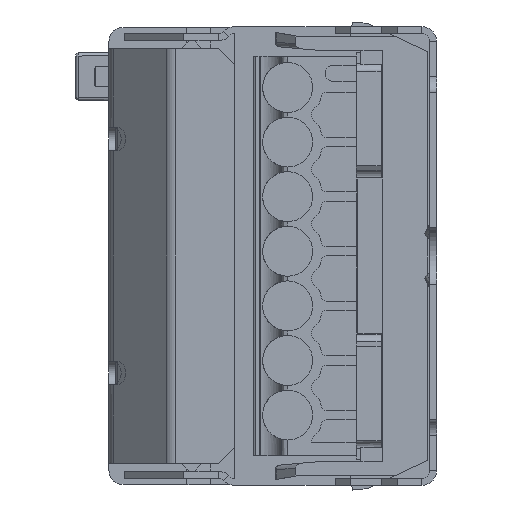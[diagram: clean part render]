
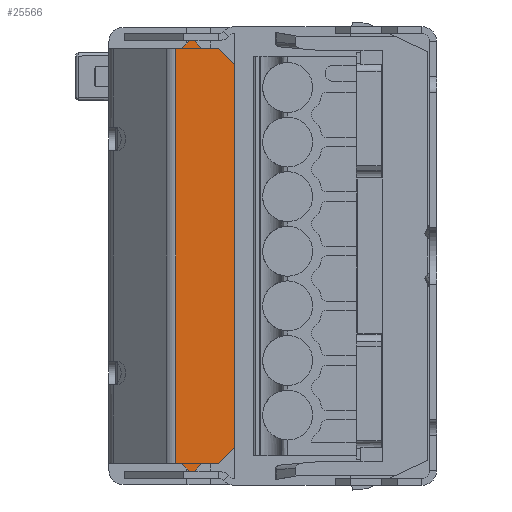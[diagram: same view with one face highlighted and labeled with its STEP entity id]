
A CAD part, left-side view. The second image highlights one B-rep face of the part: STEP entity #25566.
In plain terms, the highlighted planar face has unit normal (-1, 0, 0).
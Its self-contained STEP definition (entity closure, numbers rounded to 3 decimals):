
#217 = CARTESIAN_POINT ( 'NONE',  ( -153.999, 4.003, 13.8 ) ) ;
#235 = LINE ( 'NONE', #36183, #7130 ) ;
#1189 = CARTESIAN_POINT ( 'NONE',  ( -153.999, 6.203, 13.95 ) ) ;
#1348 = CARTESIAN_POINT ( 'NONE',  ( -153.999, 3.45, -12.247 ) ) ;
#1401 = ORIENTED_EDGE ( 'NONE', *, *, #15741, .F. ) ;
#1615 = VERTEX_POINT ( 'NONE', #35372 ) ;
#2371 = CARTESIAN_POINT ( 'NONE',  ( -153.999, 6.853, 13.3 ) ) ;
#2872 = DIRECTION ( 'NONE',  ( 0., -1., 0. ) ) ;
#3194 = EDGE_CURVE ( 'NONE', #17215, #4475, #13320, .T. ) ;
#3237 = LINE ( 'NONE', #217, #10137 ) ;
#3341 = DIRECTION ( 'NONE',  ( 0., 0.707, 0.707 ) ) ;
#3815 = EDGE_CURVE ( 'NONE', #11654, #31414, #9260, .T. ) ;
#3944 = ORIENTED_EDGE ( 'NONE', *, *, #32106, .T. ) ;
#3980 = ORIENTED_EDGE ( 'NONE', *, *, #12141, .F. ) ;
#4018 = VECTOR ( 'NONE', #20964, 1000. ) ;
#4038 = DIRECTION ( 'NONE',  ( 0., -0.707, -0.707 ) ) ;
#4118 = ORIENTED_EDGE ( 'NONE', *, *, #3194, .T. ) ;
#4258 = DIRECTION ( 'NONE',  ( 0., 0., 1. ) ) ;
#4356 = CARTESIAN_POINT ( 'NONE',  ( -153.999, 4.503, 13.3 ) ) ;
#4475 = VERTEX_POINT ( 'NONE', #11331 ) ;
#4680 = LINE ( 'NONE', #35055, #12498 ) ;
#5462 = CARTESIAN_POINT ( 'NONE',  ( -153.999, 13.313, 13.3 ) ) ;
#6161 = CARTESIAN_POINT ( 'NONE',  ( -153.999, 3.003, 11.8 ) ) ;
#6222 = EDGE_CURVE ( 'NONE', #1615, #31651, #27404, .T. ) ;
#7130 = VECTOR ( 'NONE', #4038, 1000. ) ;
#7464 = ORIENTED_EDGE ( 'NONE', *, *, #36485, .T. ) ;
#7499 = CARTESIAN_POINT ( 'NONE',  ( -153.999, 7.208, 13.3 ) ) ;
#7591 = VERTEX_POINT ( 'NONE', #25080 ) ;
#7998 = VERTEX_POINT ( 'NONE', #12643 ) ;
#8691 = EDGE_CURVE ( 'NONE', #1615, #14055, #32425, .T. ) ;
#8727 = ORIENTED_EDGE ( 'NONE', *, *, #14065, .T. ) ;
#9260 = LINE ( 'NONE', #2371, #17054 ) ;
#9327 = AXIS2_PLACEMENT_3D ( 'NONE', #31617, #14113, #34570 ) ;
#10006 = VECTOR ( 'NONE', #4258, 1000. ) ;
#10137 = VECTOR ( 'NONE', #35480, 1000. ) ;
#10503 = VECTOR ( 'NONE', #34993, 1000. ) ;
#10767 = ORIENTED_EDGE ( 'NONE', *, *, #24605, .F. ) ;
#11331 = CARTESIAN_POINT ( 'NONE',  ( -153.999, 7.208, -13.3 ) ) ;
#11654 = VERTEX_POINT ( 'NONE', #22152 ) ;
#11911 = VECTOR ( 'NONE', #22639, 1000. ) ;
#12008 = VERTEX_POINT ( 'NONE', #12140 ) ;
#12094 = ORIENTED_EDGE ( 'NONE', *, *, #6222, .T. ) ;
#12140 = CARTESIAN_POINT ( 'NONE',  ( -153.999, 6.053, 13.8 ) ) ;
#12141 = EDGE_CURVE ( 'NONE', #12008, #21775, #22203, .T. ) ;
#12498 = VECTOR ( 'NONE', #14736, 1000. ) ;
#12643 = CARTESIAN_POINT ( 'NONE',  ( -153.999, 3.45, 12.247 ) ) ;
#13320 = LINE ( 'NONE', #17556, #28856 ) ;
#13993 = PLANE ( 'NONE',  #9327 ) ;
#14055 = VERTEX_POINT ( 'NONE', #15941 ) ;
#14065 = EDGE_CURVE ( 'NONE', #21365, #7998, #32453, .T. ) ;
#14113 = DIRECTION ( 'NONE',  ( -1., 0., 0. ) ) ;
#14257 = LINE ( 'NONE', #37984, #28909 ) ;
#14503 = EDGE_CURVE ( 'NONE', #21775, #33476, #17237, .T. ) ;
#14736 = DIRECTION ( 'NONE',  ( 0., -0.707, 0.707 ) ) ;
#15074 = CARTESIAN_POINT ( 'NONE',  ( -153.999, 6.203, -13.95 ) ) ;
#15493 = FACE_OUTER_BOUND ( 'NONE', #17370, .T. ) ;
#15741 = EDGE_CURVE ( 'NONE', #17215, #11654, #35265, .T. ) ;
#15941 = CARTESIAN_POINT ( 'NONE',  ( -153.999, 6.353, -13.8 ) ) ;
#17054 = VECTOR ( 'NONE', #19962, 1000. ) ;
#17097 = VERTEX_POINT ( 'NONE', #33054 ) ;
#17215 = VERTEX_POINT ( 'NONE', #7499 ) ;
#17237 = LINE ( 'NONE', #32938, #25045 ) ;
#17246 = ORIENTED_EDGE ( 'NONE', *, *, #8691, .F. ) ;
#17370 = EDGE_LOOP ( 'NONE', ( #17246, #12094, #29314, #7464, #8727, #32290, #34054, #3980, #10767, #32966, #1401, #4118, #25366, #3944 ) ) ;
#17556 = CARTESIAN_POINT ( 'NONE',  ( -153.999, 7.208, 14.65 ) ) ;
#17639 = CARTESIAN_POINT ( 'NONE',  ( -153.999, 4.003, -13.8 ) ) ;
#18871 = CARTESIAN_POINT ( 'NONE',  ( -153.999, 3.45, -324.932 ) ) ;
#19962 = DIRECTION ( 'NONE',  ( 0., -0.707, 0.707 ) ) ;
#20964 = DIRECTION ( 'NONE',  ( 0., -0.707, 0.707 ) ) ;
#21365 = VERTEX_POINT ( 'NONE', #1348 ) ;
#21775 = VERTEX_POINT ( 'NONE', #32607 ) ;
#22152 = CARTESIAN_POINT ( 'NONE',  ( -153.999, 6.853, 13.3 ) ) ;
#22203 = LINE ( 'NONE', #1189, #29989 ) ;
#22299 = EDGE_CURVE ( 'NONE', #7998, #33476, #37057, .T. ) ;
#22639 = DIRECTION ( 'NONE',  ( 0., -1., 0. ) ) ;
#24089 = DIRECTION ( 'NONE',  ( 0., -1., 0. ) ) ;
#24605 = EDGE_CURVE ( 'NONE', #31414, #12008, #3237, .T. ) ;
#24661 = VECTOR ( 'NONE', #35167, 1000. ) ;
#25045 = VECTOR ( 'NONE', #24089, 1000. ) ;
#25080 = CARTESIAN_POINT ( 'NONE',  ( -153.999, 6.853, -13.3 ) ) ;
#25101 = EDGE_CURVE ( 'NONE', #31651, #17097, #26064, .T. ) ;
#25366 = ORIENTED_EDGE ( 'NONE', *, *, #33742, .T. ) ;
#25566 = ADVANCED_FACE ( 'NONE', ( #15493 ), #13993, .T. ) ;
#26064 = LINE ( 'NONE', #32067, #10503 ) ;
#27404 = LINE ( 'NONE', #15074, #4018 ) ;
#28856 = VECTOR ( 'NONE', #38030, 1000. ) ;
#28909 = VECTOR ( 'NONE', #2872, 1000. ) ;
#29289 = VECTOR ( 'NONE', #3341, 1000. ) ;
#29314 = ORIENTED_EDGE ( 'NONE', *, *, #25101, .T. ) ;
#29989 = VECTOR ( 'NONE', #36327, 1000. ) ;
#30453 = CARTESIAN_POINT ( 'NONE',  ( -153.999, 5.553, -13.3 ) ) ;
#31414 = VERTEX_POINT ( 'NONE', #37842 ) ;
#31617 = CARTESIAN_POINT ( 'NONE',  ( -153.999, 312.313, 14.65 ) ) ;
#31651 = VERTEX_POINT ( 'NONE', #30453 ) ;
#32067 = CARTESIAN_POINT ( 'NONE',  ( -153.999, 5.553, -13.3 ) ) ;
#32106 = EDGE_CURVE ( 'NONE', #7591, #14055, #235, .T. ) ;
#32290 = ORIENTED_EDGE ( 'NONE', *, *, #22299, .T. ) ;
#32425 = LINE ( 'NONE', #17639, #24661 ) ;
#32453 = LINE ( 'NONE', #18871, #10006 ) ;
#32607 = CARTESIAN_POINT ( 'NONE',  ( -153.999, 5.553, 13.3 ) ) ;
#32938 = CARTESIAN_POINT ( 'NONE',  ( -153.999, 5.553, 13.3 ) ) ;
#32966 = ORIENTED_EDGE ( 'NONE', *, *, #3815, .F. ) ;
#33054 = CARTESIAN_POINT ( 'NONE',  ( -153.999, 4.503, -13.3 ) ) ;
#33476 = VERTEX_POINT ( 'NONE', #4356 ) ;
#33742 = EDGE_CURVE ( 'NONE', #4475, #7591, #14257, .T. ) ;
#34054 = ORIENTED_EDGE ( 'NONE', *, *, #14503, .F. ) ;
#34570 = DIRECTION ( 'NONE',  ( 0., 0., 1. ) ) ;
#34993 = DIRECTION ( 'NONE',  ( 0., -1., 0. ) ) ;
#35055 = CARTESIAN_POINT ( 'NONE',  ( -153.999, 4.503, -13.3 ) ) ;
#35167 = DIRECTION ( 'NONE',  ( 0., 1., 0. ) ) ;
#35265 = LINE ( 'NONE', #5462, #11911 ) ;
#35372 = CARTESIAN_POINT ( 'NONE',  ( -153.999, 6.053, -13.8 ) ) ;
#35480 = DIRECTION ( 'NONE',  ( 0., -1., 0. ) ) ;
#36183 = CARTESIAN_POINT ( 'NONE',  ( -153.999, 6.853, -13.3 ) ) ;
#36327 = DIRECTION ( 'NONE',  ( 0., -0.707, -0.707 ) ) ;
#36485 = EDGE_CURVE ( 'NONE', #17097, #21365, #4680, .T. ) ;
#37057 = LINE ( 'NONE', #6161, #29289 ) ;
#37842 = CARTESIAN_POINT ( 'NONE',  ( -153.999, 6.353, 13.8 ) ) ;
#37984 = CARTESIAN_POINT ( 'NONE',  ( -153.999, 13.313, -13.3 ) ) ;
#38030 = DIRECTION ( 'NONE',  ( 0., 0., -1. ) ) ;
